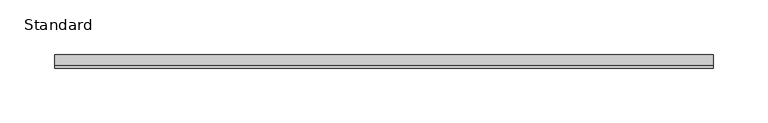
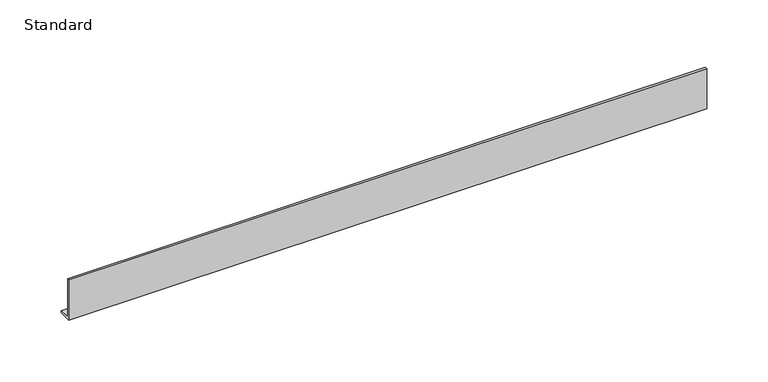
"""IFC4 building model written with IfcOpenShell, lengths in millimetres: furniture geometry, X_Partition-Channel-Duracube-Floor : Standard."""

from ifc_helpers import new_model, si_unit, frame, origin, place, context, project, spatial, polyline, outline, extrude, source, transform, mapped, element, save


def standard_75b0d6d5(model_context):
    return source(origin(), model_context, "Body", "SweptSolid", [
        extrude(outline(polyline([(-17.0, 0.0), (-17.0, 40.0), (-15.0, 40.0), (-15.0, 2.0), (-5.0, 2.0), (-5.0, 0.0), (-17.0, 0.0)])), frame((-255.2996736, 0.0, 0.0), z_axis=(1.0, 0.0, 0.0), x_axis=(0.0, 1.0, 0.0)), (0.0, 0.0, 1.0), 600.0),
    ])


if __name__ == "__main__":
    model = new_model("IFC4")
    model_context = context("Model", 3, world=origin())
    ifc_project = project(units=[si_unit("LENGTHUNIT", "METRE", prefix="MILLI")], contexts=[model_context])
    site = spatial("IfcSite", under=ifc_project)
    building = spatial("IfcBuilding", under=site)
    placement = place(None, origin())
    standard_shape = standard_75b0d6d5(model_context)
    element("IfcFurniture", 1, ObjectType="X_Partition-Channel-Duracube-Floor : Standard", at=placement, inside=building, context=model_context, shape_type="MappedRepresentation", body=[
        mapped(standard_shape, transform((0.0, 0.0, 0.0), x_axis=(1.0, 0.0, 0.0), y_axis=(0.0, 1.0, 0.0), z_axis=(0.0, 0.0, 1.0))),
    ])
    save(model, "model.ifc")
